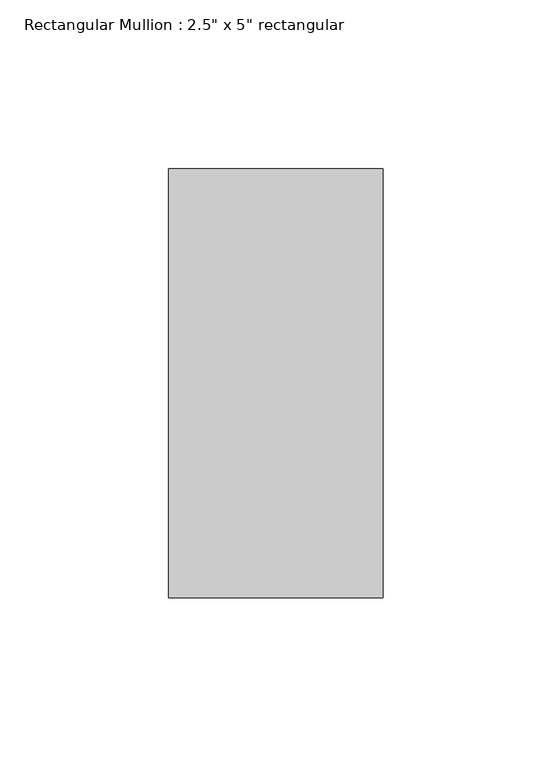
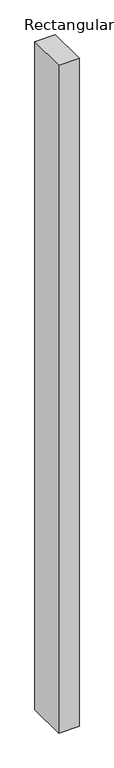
"""IFC4 building model written with IfcOpenShell, lengths in millimetres: member geometry."""

from ifc_helpers import new_model, si_unit, frame, origin, place, context, project, spatial, polyline, outline, extrude, source, transform, mapped, element, save


def member_8daf8b49(model_context):
    return source(origin(), model_context, "Body", "SweptSolid", [
        extrude(outline(polyline([(0.0, 63.5), (0.0, -63.5), (-63.5, -63.5), (-63.5, 63.5), (0.0, 63.5)])), frame((0.0, 0.0, -2190.75), z_axis=(0.0, 0.0, 1.0), x_axis=(1.0, 0.0, 0.0)), (0.0, 0.0, 1.0), 2190.75),
    ])


if __name__ == "__main__":
    model = new_model("IFC4")
    model_context = context("Model", 3, world=origin())
    ifc_project = project(units=[si_unit("LENGTHUNIT", "METRE", prefix="MILLI")], contexts=[model_context])
    site = spatial("IfcSite", under=ifc_project)
    building = spatial("IfcBuilding", under=site)
    placement = place(None, origin())
    member_shape = member_8daf8b49(model_context)
    element("IfcMember", 1, ObjectType="Rectangular Mullion : 2.5\" x 5\" rectangular", at=placement, inside=building, context=model_context, shape_type="MappedRepresentation", body=[
        mapped(member_shape, transform((0.0, 0.0, 0.0), x_axis=(1.0, 0.0, 0.0), y_axis=(0.0, 1.0, 0.0), z_axis=(0.0, 0.0, 1.0))),
    ])
    save(model, "model.ifc")
